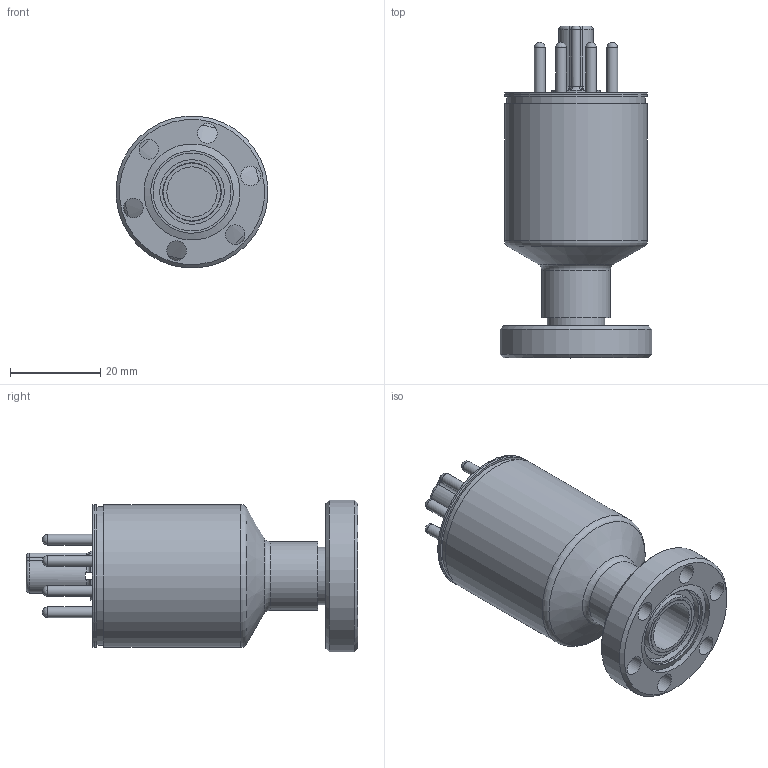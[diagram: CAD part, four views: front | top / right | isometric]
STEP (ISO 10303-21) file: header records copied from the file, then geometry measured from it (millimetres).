
FILE_DESCRIPTION (( 'STEP AP214' ), '1' );
FILE_NAME ('2-2120-050.STEP', '2024-01-25T04:24:31', ( '' ), ( '' ), 'SwSTEP 2.0', 'SolidWorks 2022', '' );
FILE_SCHEMA (( 'AUTOMOTIVE_DESIGN' ));
Length unit declared in the file: inch
Products named in the file (1): 2-2120-050
Bounding box: 33.67 x 73.71 x 33.67 mm (x, y, z)
Volume: 36474.3 mm3; surface area: 13395.3 mm2
Topology: 3 solids, 3 shells, 141 faces, 333 edges, 212 vertices
Faces by surface type: cylinder 58, plane 53, torus 14, sphere 10, cone 5, bspline 1
Full cylindrical faces by diameter (mm): 0.635 x4, 2.032 x1, 2.362 x8, 3.937 x16, 4.369 x6, 6.604 x1, 11.176 x1, 12.7 x1, 12.954 x1, 14.3 x1, 15.24 x1, 17.348 x1, 18.288 x1, 21.387 x1, 25.781 x1, 27.813 x1, 29.845 x1, 30.734 x1, 31.75 x3, 33.782 x1
Entity records: 5500 total; most frequent: CARTESIAN_POINT 681, DIRECTION 652, ORIENTED_EDGE 452, AXIS2_PLACEMENT_3D 294, EDGE_LOOP 267, EDGE_CURVE 226, FACE_OUTER_BOUND 196, VERTEX_POINT 183
